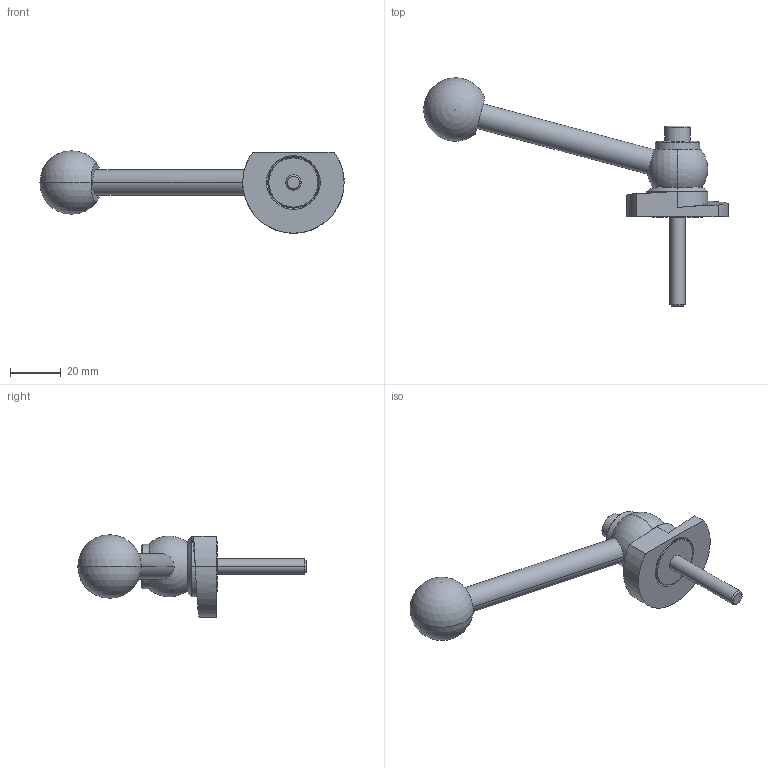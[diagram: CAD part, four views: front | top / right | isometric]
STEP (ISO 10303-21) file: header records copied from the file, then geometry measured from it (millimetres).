
FILE_DESCRIPTION (( 'STEP AP214' ), '1' );
FILE_NAME ('918.1-40-KVS-R-65.step', '2024-05-15T13:00:35', ( '' ), ( '' ), 'SwSTEP 2.0', 'SolidWorks 2022', '' );
FILE_SCHEMA (( 'AUTOMOTIVE_DESIGN' ));
Length unit declared in the file: millimetre
Products named in the file (1): 918.1-40-KVS-R-65
Bounding box: 119.95 x 89.99 x 32.5 mm (x, y, z)
Volume: 30739.8 mm3; surface area: 11495.8 mm2
Topology: 1 solids, 1 shells, 64 faces, 147 edges, 93 vertices
Faces by surface type: cylinder 22, plane 20, cone 14, sphere 4, torus 2, bspline 2
Entity records: 2045 total; most frequent: CARTESIAN_POINT 590, DIRECTION 321, ORIENTED_EDGE 274, EDGE_CURVE 137, AXIS2_PLACEMENT_3D 131, VERTEX_POINT 87, EDGE_LOOP 76, CIRCLE 68
